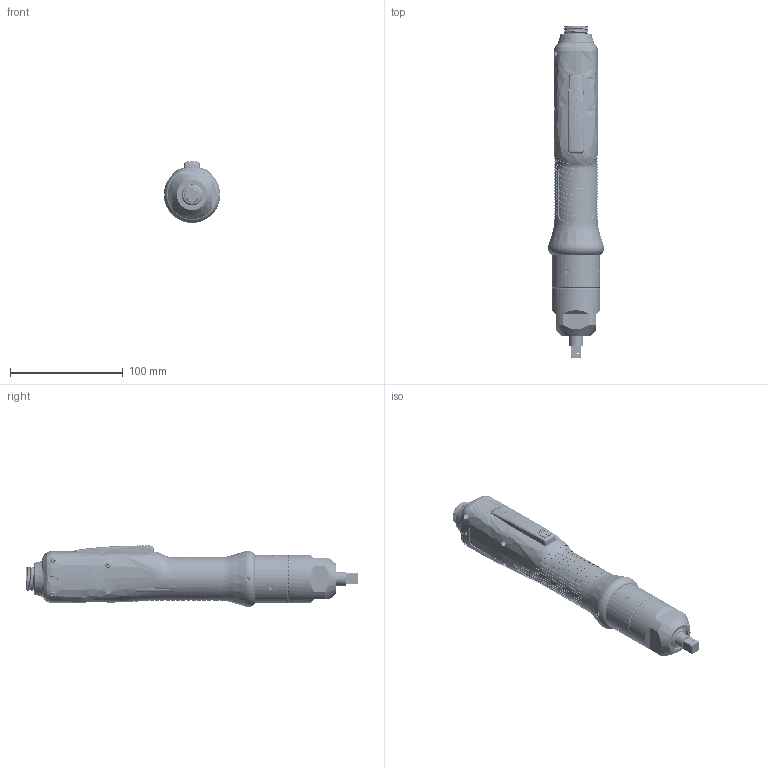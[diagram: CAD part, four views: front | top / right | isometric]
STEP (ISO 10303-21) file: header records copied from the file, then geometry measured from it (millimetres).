
FILE_DESCRIPTION((''),'2;1');
FILE_NAME('MD3236_ASM','2018-02-07T12:25:38',('hantas-design'),(''),'CREO PARAMETRIC BY PTC INC, 2016510','CREO PARAMETRIC BY PTC INC, 2016510','');
FILE_SCHEMA(('CONFIG_CONTROL_DESIGN'));
Length unit declared in the file: millimetre
Products named in the file (61): MD32-PCB; SENSOR_1; LED; MD32-PCB_ASM; EARTH-RING; MD32-SHORT-LOWER-HOUSING; 14P-INSULATOR-CONNECTOR_11_1; 2-PIN-FEMALE_1_1; 1_5-PIN-FEMALE_3_1; 14P-INSULATOR-COVER_8_1; 14P-N-HOUSING_2_2; INSULATOR-ASSY_ASM_4_ASM_3_ASM; 14P-N-CONNECTOR_ASM_2_ASM; 14P-N-CONNECTOR_ASM_ASM; MD32-LEVER; PIN2X21_2; LEVER-SPRING; FR-SWITCH-COVER_6_1; FR-SWITCH-COVER-LABEL_1_1; FR-SWITCH-COVER_ASM_1_ASM_1_ASM; FR-SWITCH-COVER_ASM_ASM_1_ASM; FR-SWITCH-COVER_ASM_ASM_ASM; _KS_1023_BC_-_M2_5_X_5-C; ROUND__T-TORX_KS_1023_RC_-_M2_6; MD32-SHORT-UPPER-HPUSING; SINK_HEAD_KS_1023_FC-_M3_X_8-S; 1ST-GEAR-CASE-MD3236; KS_1336_I_-_25; PRT0007; BEARING-COVER-MD3236; WRENCH_KS_1003_-_M3_X_12_X_12-S; 2ND-GEAR-CASE-M0_7-MD3236; 3RD-GEAR-HOLDER-MD3236; KS_B_2023_S69_-_6903-S-ZZ; KS_1336_E_-_17; 3RD-GEAR-HOLDER-MD3236_ASM; 3RD-IDLE-GEAR-MD3236; LOCK-NUT-MD3236; 2ND-GEAR-CASE-3236_ASM; SINK_HEAD_KS_1023_FC-_M3_X_6-C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
Assembly tree (90 placements, depth 6):
  MD3236_ASM
    MD32-PCB_ASM
      MD32-PCB
      SENSOR_1  x2
      LED
    EARTH-RING
    MD32-SHORT-LOWER-HOUSING
    14P-N-CONNECTOR_ASM_ASM
      14P-N-CONNECTOR_ASM_2_ASM
        INSULATOR-ASSY_ASM_4_ASM_3_ASM
          14P-INSULATOR-CONNECTOR_11_1
          2-PIN-FEMALE_1_1  x3
          1_5-PIN-FEMALE_3_1  x11
          14P-INSULATOR-COVER_8_1
          14P-N-HOUSING_2_2
    MD32-LEVER
    PIN2X21_2
    LEVER-SPRING
    FR-SWITCH-COVER_ASM_ASM_ASM
      FR-SWITCH-COVER_ASM_ASM_1_ASM
        FR-SWITCH-COVER_ASM_1_ASM_1_ASM
          FR-SWITCH-COVER_6_1
          FR-SWITCH-COVER-LABEL_1_1
    _KS_1023_BC_-_M2_5_X_5-C
    ROUND__T-TORX_KS_1023_RC_-_M2_6  x6
    MD32-SHORT-UPPER-HPUSING
    SINK_HEAD_KS_1023_FC-_M3_X_8-S  x2
    1ST-GEAR-CASE-MD3236_ASM
      1ST-GEAR-CASE-MD3236
      KS_1336_I_-_25
      PRT0007  x2
      BEARING-COVER-MD3236
      WRENCH_KS_1003_-_M3_X_12_X_12-S  x4
      2ND-GEAR-CASE-3236_ASM
        2ND-GEAR-CASE-M0_7-MD3236
        3RD-GEAR-HOLDER-MD3236_ASM
          3RD-GEAR-HOLDER-MD3236
          KS_B_2023_S69_-_6903-S-ZZ
          KS_1336_E_-_17
        3RD-IDLE-GEAR-MD3236  x4
        LOCK-NUT-MD3236
      SINK_HEAD_KS_1023_FC-_M3_X_6-C  x4
      COUPLING-NUT-3236_ASM
        COUPLING-NUT-MD3236
        INAFAG_HK1812_11MHNZSFJPF2LGYDW_ASM
          INAFAG_HK1812_11MHNZSFJPF2L-210
          INAFAG_HK1812_11MHNZSFJPF2L-215
          INAFAG_HK1812_11MHNZSFJPF2L-220_ASM
            INAFAG_HK1812_11MHNZSFJPF2L-609
            INAFAG_HK1812_11MHNZSFJPF2L-610
            INAFAG_HK1812_11MHNZSFJPF2L-611
            INAFAG_HK1812_11MHNZSFJPF2L-612
          INAFAG_HK1812_11MHNZSFJPF2L-225_ASM
            INAFAG_HK1812_11MHNZSFJPF2L-616
            INAFAG_HK1812_11MHNZSFJPF2L-617
            INAFAG_HK1812_11MHNZSFJPF2L-618
            INAFAG_HK1812_11MHNZSFJPF2L-619
            INAFAG_HK1812_11MHNZSFJPF2L-620
          INAFAG_HK1812_11MHNZSFJPF2L-230
        PRT0006
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Bounding box: 49.44 x 293.8 x 54.8 mm (x, y, z)
Volume: 196733.2 mm3; surface area: 156753 mm2
Topology: 134 solids, 138 shells, 8366 faces, 20950 edges, 13279 vertices
Faces by surface type: plane 3861, cylinder 2412, cone 1247, bspline 502, torus 205, extrusion 103, sphere 36
Entity records: 245823 total; most frequent: CARTESIAN_POINT 95635, ORIENTED_EDGE 32258, DIRECTION 28931, EDGE_CURVE 16129, VERTEX_POINT 10531, AXIS2_PLACEMENT_3D 10278, VECTOR 8375, LINE 8272
